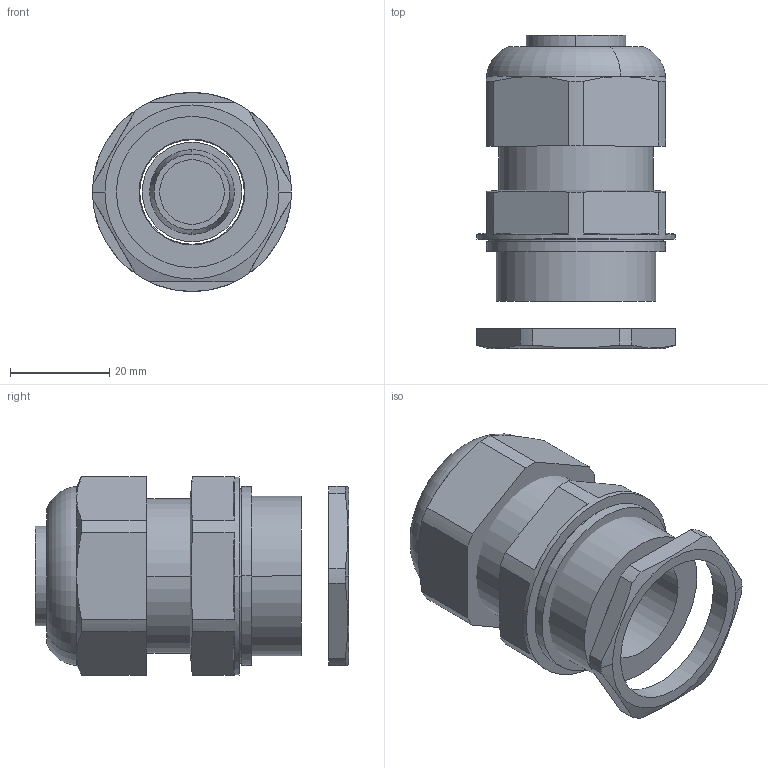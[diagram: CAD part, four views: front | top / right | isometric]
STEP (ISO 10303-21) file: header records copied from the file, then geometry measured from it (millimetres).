
FILE_DESCRIPTION (( 'STEP AP203' ), '1' );
FILE_NAME ('8161-_-M32-21_m_Mutter_m_Stopfen.STEP', '2015-04-02T07:34:54', ( '' ), ( '' ), 'SwSTEP 2.0', 'SolidWorks 2015', '' );
FILE_SCHEMA (( 'CONFIG_CONTROL_DESIGN' ));
Length unit declared in the file: millimetre
Products named in the file (1): 8161-_-M32-21_m_Mutter_m_Stopfen
Bounding box: 40 x 62.97 x 40 mm (x, y, z)
Volume: 35285.3 mm3; surface area: 21449 mm2
Topology: 6 solids, 6 shells, 171 faces, 430 edges, 274 vertices
Faces by surface type: cylinder 57, plane 55, cone 49, torus 10
Entity records: 5359 total; most frequent: CARTESIAN_POINT 1053, DIRECTION 942, ORIENTED_EDGE 860, EDGE_CURVE 430, AXIS2_PLACEMENT_3D 373, VERTEX_POINT 274, CIRCLE 201, LINE 196
